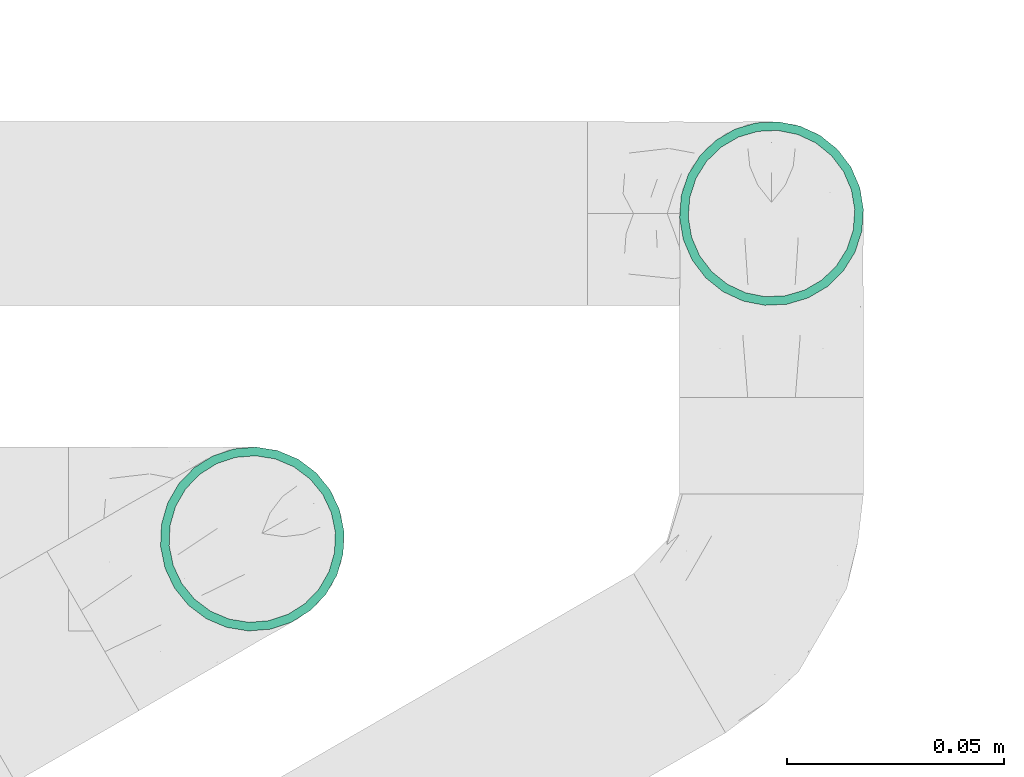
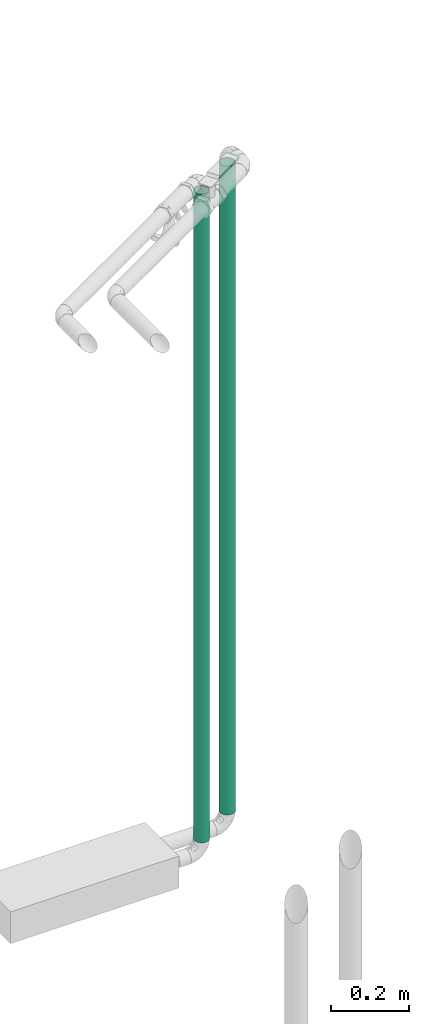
# One storey, part 25 of 108: 2 flow segments.
"""IFC2X3 building model written with IfcOpenShell, lengths in millimetres."""

from ifc_helpers import new_model, entity, si_unit, converted_unit, derived_unit, direction, frame, origin_with_axes, origin_2d_with_axis, place, context, subcontext, project, spatial, hollow_circle, extrude, source, transform, mapped, type_object, element, save


model = new_model("IFC2X3")

# Units and contexts
model_context = context("Model", 3, precision=0.01, world=frame((0.0, 4.29681676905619e-09, 0.0)), true_north=direction((4.01073788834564e-13, 1.0)))
plan_context = context("Plan", 3, precision=0.01, world=frame((0.0, 4.29681676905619e-09, 0.0)), true_north=direction((4.01073788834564e-13, 1.0)))
body_context = subcontext(model_context, "Body", "Model", "MODEL_VIEW")
ifc_project = project(units=[converted_unit("PLANEANGLEUNIT", "DEGREE", entity("IfcPositiveLengthMeasure", 0.0174532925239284), si_unit("PLANEANGLEUNIT", "RADIAN"), dimensions=[0, 0, 0, 0, 0, 0, 0]), si_unit("AREAUNIT", "SQUARE_METRE"), si_unit("LENGTHUNIT", "METRE", prefix="MILLI"), si_unit("MASSUNIT", "GRAM", prefix="KILO"), si_unit("POWERUNIT", "WATT"), si_unit("PRESSUREUNIT", "PASCAL", prefix="KILO"), si_unit("FORCEUNIT", "NEWTON", prefix="KILO"), si_unit("ELECTRICVOLTAGEUNIT", "VOLT"), si_unit("ELECTRICCURRENTUNIT", "AMPERE"), si_unit("THERMODYNAMICTEMPERATUREUNIT", "DEGREE_CELSIUS"), si_unit("TIMEUNIT", "SECOND"), si_unit("VOLUMEUNIT", "CUBIC_METRE"), derived_unit("LINEARVELOCITYUNIT", [(si_unit("LENGTHUNIT", "METRE"), 1), (si_unit("TIMEUNIT", "SECOND"), -1)]), derived_unit("VOLUMETRICFLOWRATEUNIT", [(si_unit("VOLUMEUNIT", "CUBIC_METRE"), 1), (si_unit("TIMEUNIT", "SECOND"), -1)]), derived_unit("THERMALTRANSMITTANCEUNIT", [(si_unit("POWERUNIT", "WATT"), 1), (si_unit("THERMODYNAMICTEMPERATUREUNIT", "KELVIN"), -1), (si_unit("AREAUNIT", "SQUARE_METRE"), -1)]), derived_unit("SOUNDPRESSUREUNIT", [(si_unit("PRESSUREUNIT", "PASCAL"), 1)])], contexts=[model_context, plan_context])

# Site, building, storey
site_placement = place(None, frame((0.0, -4.29681676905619e-09, 0.0), z_axis=(0.0, 0.0, 1.0), x_axis=(1.0, 0.0, 0.0)))
site = spatial("IfcSite", under=ifc_project, at=site_placement, CompositionType="ELEMENT")
building_placement = place(site_placement, frame((0.0, 4.29681676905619e-09, 0.0), z_axis=(0.0, 0.0, 1.0), x_axis=(1.0, 0.0, 0.0)))
building = spatial("IfcBuilding", under=site, at=building_placement, Name="mc-building", CompositionType="ELEMENT")
storey_placement = place(building_placement, frame((0.0, 0.0, 210200.0), z_axis=(0.0, 0.0, 1.0), x_axis=(1.0, 0.0, 0.0)))
storey = spatial("IfcBuildingStorey", under=building, at=storey_placement, Name="Nivå F - 0,7 m", CompositionType="ELEMENT", Elevation=210200.0)

# Flow segments
pipe_segment_type = type_object("IfcPipeSegmentType", Name="Stålrør normaltykke", PredefinedType="RIGIDSEGMENT")
shared_shape = source(origin_with_axes(), body_context, "Body", "SweptSolid", [
    extrude(hollow_circle(Radius=21.2, WallThickness=2.0, at=origin_2d_with_axis()), frame((0.0, 0.0, 0.0), z_axis=(1.0, 0.0, 0.0), x_axis=(0.0, 1.0, 0.0)), (0.0, 0.0, 1.0), 2036.2),
])
for number, where, z_axis, x_axis in (
    (1, (325145.60126, 464464.95683, 2128.60000000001), (-0.848048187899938, 0.529919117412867, 0.0), (0.0, 0.0, -1.0)),
    (2, (325025.95013, 464389.95683, 2128.60000000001), (-0.866025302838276, 0.500000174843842, 0.0), (0.0, 0.0, -1.0)),
):
    element("IfcFlowSegment", number, at=place(storey_placement, frame(where, z_axis=z_axis, x_axis=x_axis)), inside=storey, type_object=pipe_segment_type, Name="Stålrør normaltykke", context=body_context, shape_type="MappedRepresentation", body=[
        mapped(shared_shape, transform((0.0, 0.0, 0.0), scale=1.0)),
    ])

save(model, "model.ifc")
